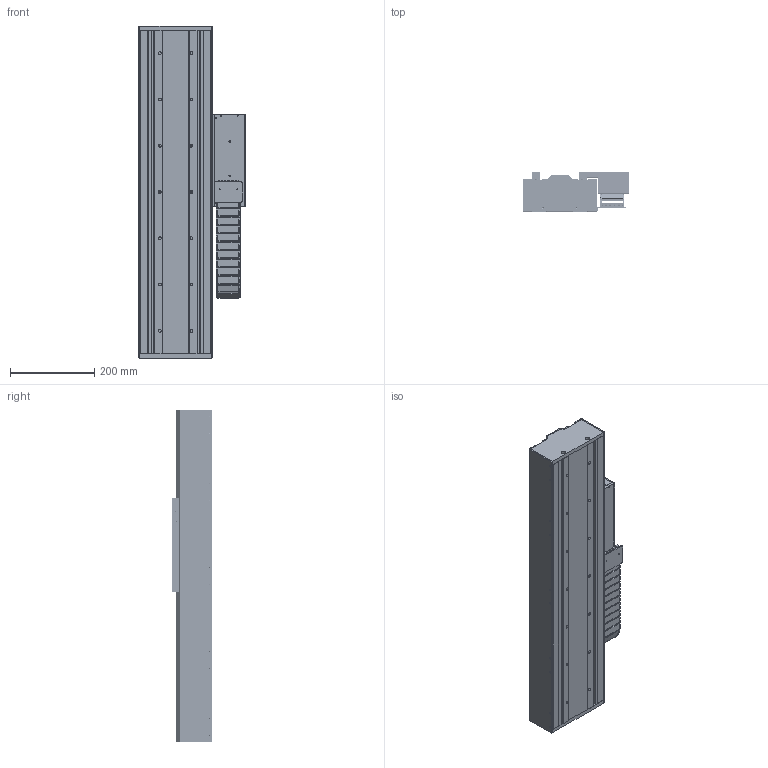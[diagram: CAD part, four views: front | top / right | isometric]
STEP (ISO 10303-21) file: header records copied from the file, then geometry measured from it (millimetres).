
FILE_DESCRIPTION (( 'STEP AP203' ), '1' );
FILE_NAME ('STF20120C-xC1B-Bxx Series.STEP', '2007-06-22T21:19:27', ( 'Yaskawa' ), ( 'Yaskawa' ), 'SwSTEP 2.0', 'SolidWorks 2007', '' );
FILE_SCHEMA (( 'CONFIG_CONTROL_DESIGN' ));
Products named in the file (56): 07.50.028.0_27; 07.50.028.0_54; 07.50.028.0_59; 07.50.028.0_56; STF2035-009-02 Top Cover 2_C; STF2035-006 Endplate; 07.50.028.0_62; STCM-007 Lower E-Chain Bracket; STF20120C; 07.50.028.0_39; 07.50.028.0_40; 07.50.028.0_41; 07.50.028.0_55; 07.50.028.0_48; 07.50.028.0_47; 07.50.028.0_46; 07.50.028.0_45; STF2035-010-02 Side Cover 2_C; 07.50.028.0_53; 07.50.028.0_50; SGLFW-20A120AP; STF2035-005-R2 Cable Router; STF2035-003 Renishaw Encoder Mount; STF20-120 SSR15W Carriage-R2; STF2035-001B F20-120 Carriage; RGH22B; STF2035-002A-R2 F2035 Carriage Horn; SSR15W Block; STF2035-004 Flag; 07.50.028.0_57; 07.50.028.0_60; 07.50.028.0_61; 07.50.028.0_51; 07.50.028.0_49; STF20120C-xC1B-Bxx Series; Mult-SR15+580LY_003; STF20BM Base_STF20BM-003; End Stop with Bumper; Complete Carriage; STF2035-007 End Stop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
Assembly tree (66 placements, depth 4):
  STF20120C-xC1B-Bxx Series
    STF2035-006 Endplate  x2
    STCM-007 Lower E-Chain Bracket
    STF2035-010-02 Side Cover 2_C  x2
    Complete Carriage
      STF20-120 SSR15W Carriage-R2
        STF2035-001B F20-120 Carriage
        SSR15W Block  x4
        SGLFW-20A120AP
        STF2035-003 Renishaw Encoder Mount
        RGH22B
        STF2035-002A-R2 F2035 Carriage Horn  x2
        STF2035-004 Flag
        STF2035-005-R2 Cable Router
      STCM-R1
        STCM-006-R1 Upper E-chain Bracket
        STCM-005-R1 Cable Assembly Cover
        Serial Converter
        STCM-001-R2 Cable Bracket
        STCM-003 Cable Assembly Bottom
        STCM-004 Cable Assembly Side
        STCM-002-R2 Cable Assembly Front
    STF2035-009-02 Top Cover 2_C
    STF20120C
      07.50.028.0_62
      07.50.028.0_40
      07.50.028.0_42
      07.50.028.0_51
      07.50.028.0_45
      07.50.028.0_55
      07.50.028.0_48
      07.50.028.0_53
      07.50.028.0_41
      07.50.028.0_59
      07.50.028.0_60
      07.50.028.0_52
      07.50.028.0_43
      07.50.028.0_54
      07.50.028.0_27
      07.50.028.0_57
      07.50.028.0_50
      07.50.028.0_47
      07.50.028.0_44
      07.50.028.0_58
      07.50.028.0_46
      07.50.028.0_39
      07.50.028.0_56
      07.50.028.0_49
      07.50.028.0_61
    STF20BM Base_STF20BM-003
      End Stop with Bumper  x4
        STF2035-007 End Stop
        Bumper-Medium
      Mult-SR15+580LY_003  x2
      SGLFM-20324AC  x2
      STF20BM Base_STF20BM-003
Bounding box: 254.2 x 94.7 x 789.05 mm (x, y, z)
Volume: 5166379 mm3; surface area: 1724154.8 mm2
Topology: 86 solids, 86 shells, 4662 faces, 12171 edges, 7785 vertices
Faces by surface type: plane 2342, cylinder 1930, cone 342, bspline 44, torus 4
Entity records: 115179 total; most frequent: DIRECTION 19331, CARTESIAN_POINT 19141, ORIENTED_EDGE 18078, EDGE_CURVE 9039, AXIS2_PLACEMENT_3D 6731, VERTEX_POINT 5928, VECTOR 5869, LINE 5869
